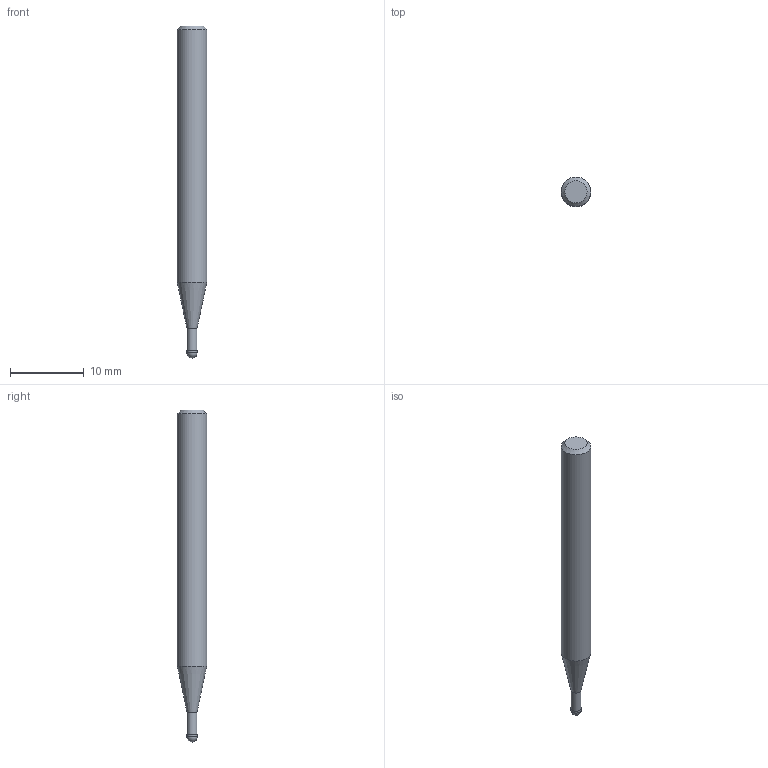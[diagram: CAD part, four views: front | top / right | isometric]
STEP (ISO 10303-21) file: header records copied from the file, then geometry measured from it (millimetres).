
FILE_DESCRIPTION((''),'2;1');
FILE_NAME('C:\Users\nsx150\AppData\Local\Temp\Mastercam 2021\ARV7HD45SN\TEMP.step','2023-06-13T16:36:10',(''),(''),'STEP Write','Mastercam 2021 ... CNC Software, Inc.','');
FILE_SCHEMA(('AUTOMOTIVE_DESIGN'));
Length unit declared in the file: millimetre
Products named in the file (1): None
Bounding box: 4 x 4 x 45 mm (x, y, z)
Volume: 478.8 mm3; surface area: 519.1 mm2
Topology: 2 solids, 2 shells, 9 faces, 14 edges, 8 vertices
Faces by surface type: plane 3, cylinder 3, cone 2, sphere 1
Full cylindrical faces by diameter (mm): 1.35 x1, 1.4 x1, 4 x1
Entity records: 211 total; most frequent: DIRECTION 36, CARTESIAN_POINT 25, AXIS2_PLACEMENT_3D 18, ORIENTED_EDGE 14, EDGE_LOOP 14, STYLED_ITEM 12, ADVANCED_FACE 9, FACE_BOUND 8
